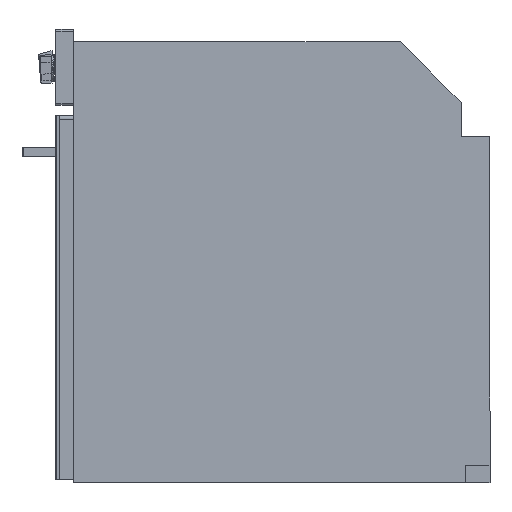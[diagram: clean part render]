
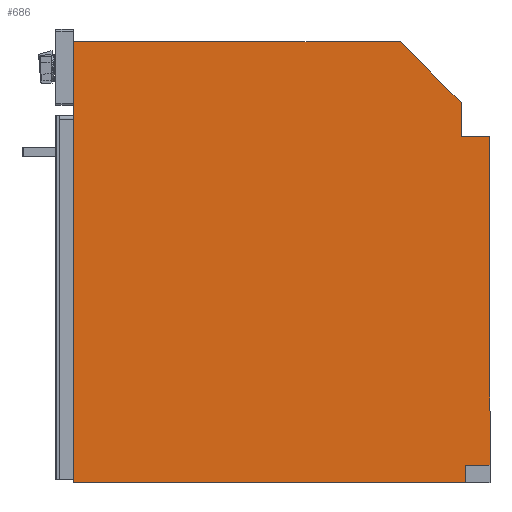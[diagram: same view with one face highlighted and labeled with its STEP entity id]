
A CAD part, left-side view. The second image highlights one B-rep face of the part: STEP entity #686.
In plain terms, the highlighted planar face has unit normal (-1, 0, 0).
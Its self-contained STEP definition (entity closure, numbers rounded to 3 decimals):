
#686=ADVANCED_FACE('',(#1065),#885,.T.);
#885=PLANE('',#4541);
#1065=FACE_OUTER_BOUND('',#1333,.T.);
#1333=EDGE_LOOP('',(#2220,#2221,#2222,#2223,#2224,#2225,#2226,#2227,#2228));
#2220=ORIENTED_EDGE('',*,*,#3439,.T.);
#2221=ORIENTED_EDGE('',*,*,#3446,.T.);
#2222=ORIENTED_EDGE('',*,*,#3449,.T.);
#2223=ORIENTED_EDGE('',*,*,#3452,.T.);
#2224=ORIENTED_EDGE('',*,*,#3455,.T.);
#2225=ORIENTED_EDGE('',*,*,#3458,.T.);
#2226=ORIENTED_EDGE('',*,*,#3461,.T.);
#2227=ORIENTED_EDGE('',*,*,#3433,.T.);
#2228=ORIENTED_EDGE('',*,*,#3469,.T.);
#2951=VERTEX_POINT('',#7202);
#2952=VERTEX_POINT('',#7204);
#2957=VERTEX_POINT('',#7217);
#2958=VERTEX_POINT('',#7218);
#2963=VERTEX_POINT('',#7231);
#2965=VERTEX_POINT('',#7237);
#2967=VERTEX_POINT('',#7243);
#2969=VERTEX_POINT('',#7249);
#2971=VERTEX_POINT('',#7255);
#3433=EDGE_CURVE('',#2952,#2951,#3853,.T.);
#3439=EDGE_CURVE('',#2957,#2958,#3859,.T.);
#3446=EDGE_CURVE('',#2958,#2963,#3866,.T.);
#3449=EDGE_CURVE('',#2963,#2965,#3869,.T.);
#3452=EDGE_CURVE('',#2965,#2967,#3872,.T.);
#3455=EDGE_CURVE('',#2967,#2969,#3875,.T.);
#3458=EDGE_CURVE('',#2969,#2971,#3878,.T.);
#3461=EDGE_CURVE('',#2971,#2952,#3881,.T.);
#3469=EDGE_CURVE('',#2951,#2957,#3889,.T.);
#3853=LINE('',#7203,#4146);
#3859=LINE('',#7216,#4152);
#3866=LINE('',#7230,#4159);
#3869=LINE('',#7236,#4162);
#3872=LINE('',#7242,#4165);
#3875=LINE('',#7248,#4168);
#3878=LINE('',#7254,#4171);
#3881=LINE('',#7260,#4174);
#3889=LINE('',#7272,#4182);
#4146=VECTOR('',#5239,1.);
#4152=VECTOR('',#5249,1.);
#4159=VECTOR('',#5258,1.);
#4162=VECTOR('',#5263,1.);
#4165=VECTOR('',#5268,1.);
#4168=VECTOR('',#5273,1.);
#4171=VECTOR('',#5278,1.);
#4174=VECTOR('',#5283,1.);
#4182=VECTOR('',#5295,1.);
#4541=AXIS2_PLACEMENT_3D('',#7275,#5300,#5301);
#5239=DIRECTION('',(0.,0.,1.));
#5249=DIRECTION('',(0.,0.,1.));
#5258=DIRECTION('',(0.,1.,0.));
#5263=DIRECTION('',(0.,0.,1.));
#5268=DIRECTION('',(0.,0.707,0.707));
#5273=DIRECTION('',(0.,1.,0.));
#5278=DIRECTION('',(0.,0.,-1.));
#5283=DIRECTION('',(0.,-1.,0.));
#5295=DIRECTION('',(0.,-1.,0.));
#5300=DIRECTION('',(-1.,0.,0.));
#5301=DIRECTION('',(0.,0.,1.));
#7202=CARTESIAN_POINT('',(-275.,32.,23.));
#7203=CARTESIAN_POINT('',(-275.,32.,0.));
#7204=CARTESIAN_POINT('',(-275.,32.,0.));
#7216=CARTESIAN_POINT('',(-275.,0.,23.));
#7217=CARTESIAN_POINT('',(-275.,0.,23.));
#7218=CARTESIAN_POINT('',(-275.,0.,455.));
#7230=CARTESIAN_POINT('',(-275.,0.,455.));
#7231=CARTESIAN_POINT('',(-275.,38.,455.));
#7236=CARTESIAN_POINT('',(-275.,38.,455.));
#7237=CARTESIAN_POINT('',(-275.,38.,500.));
#7242=CARTESIAN_POINT('',(-275.,38.,500.));
#7243=CARTESIAN_POINT('',(-275.,118.,580.));
#7248=CARTESIAN_POINT('',(-275.,118.,580.));
#7249=CARTESIAN_POINT('',(-275.,548.,580.));
#7254=CARTESIAN_POINT('',(-275.,548.,580.));
#7255=CARTESIAN_POINT('',(-275.,548.,0.));
#7260=CARTESIAN_POINT('',(-275.,548.,0.));
#7272=CARTESIAN_POINT('',(-275.,32.,23.));
#7275=CARTESIAN_POINT('',(-275.,0.,0.));
